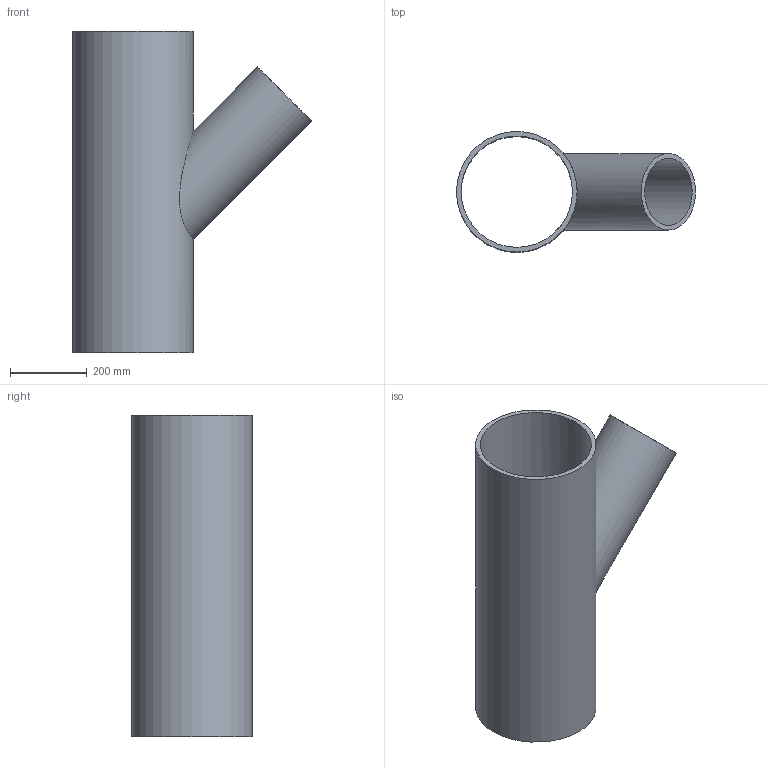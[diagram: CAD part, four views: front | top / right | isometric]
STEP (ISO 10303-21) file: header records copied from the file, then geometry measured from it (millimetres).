
FILE_DESCRIPTION(/* description */ (''),/* implementation_level */ '2;1');
FILE_NAME(/* name */ 'C:\Planerdaten\Export PLA\PRO_101557\stp\372146.stp',/* time_stamp */ '2021-09-30T15:10:11+02:00',/* author */ ('JANAN'),/* organization */ (''),/* preprocessor_version */ 'ST-DEVELOPER v16.13',/* originating_system */ 'Autodesk Inventor 2018',/* authorisation */ '');
FILE_SCHEMA (('AUTOMOTIVE_DESIGN { 1 0 10303 214 3 1 1 }'));
Length unit declared in the file: millimetre
Products named in the file (1): tmp1F37.tmp
Bounding box: 624.19 x 315 x 840 mm (x, y, z)
Volume: 11887339.5 mm3; surface area: 1979427.3 mm2
Topology: 1 solids, 1 shells, 7 faces, 17 edges, 12 vertices
Faces by surface type: cylinder 4, plane 3
Full cylindrical faces by diameter (mm): 175.6 x1, 200 x1, 290.6 x1, 315 x1
Entity records: 356 total; most frequent: CARTESIAN_POINT 178, DIRECTION 28, EDGE_LOOP 16, ORIENTED_EDGE 16, AXIS2_PLACEMENT_3D 14, FACE_BOUND 9, VERTEX_POINT 8, EDGE_CURVE 8
